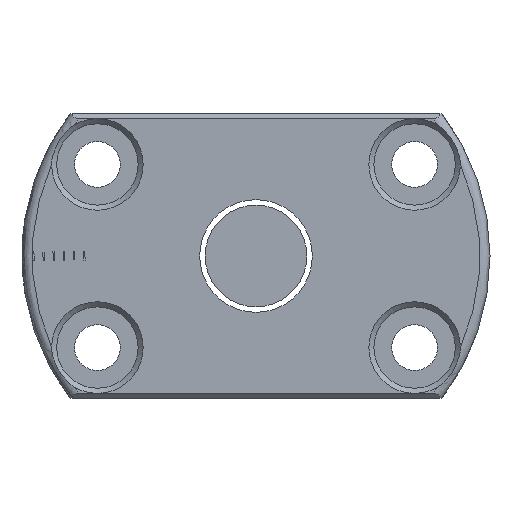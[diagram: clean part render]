
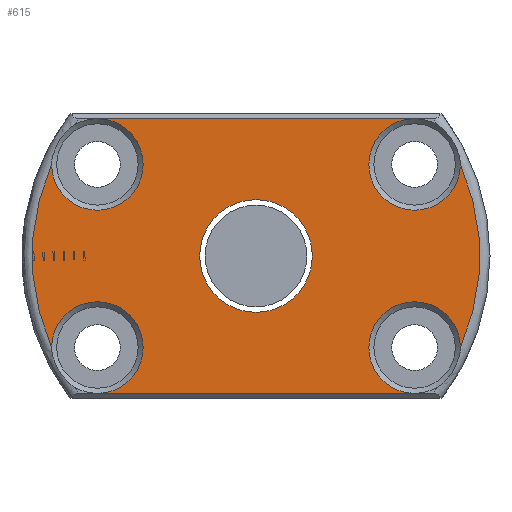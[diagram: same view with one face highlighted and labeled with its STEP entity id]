
A CAD part, left-side view. The second image highlights one B-rep face of the part: STEP entity #615.
In plain terms, the highlighted planar face has unit normal (-1, 0, 0).
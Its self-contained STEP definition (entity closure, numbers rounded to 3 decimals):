
#72 = LINE ( 'NONE', #2299, #1893 ) ;
#80 = AXIS2_PLACEMENT_3D ( 'NONE', #1989, #928, #389 ) ;
#83 = EDGE_LOOP ( 'NONE', ( #1822, #784, #3147, #3368, #2995, #826, #3529, #2976 ) ) ;
#98 = DIRECTION ( 'NONE',  ( 0., 1., 0. ) ) ;
#144 = CARTESIAN_POINT ( 'NONE',  ( -34., 0., 0. ) ) ;
#238 = CARTESIAN_POINT ( 'NONE',  ( -34., 20.088, -8.97 ) ) ;
#258 = CARTESIAN_POINT ( 'NONE',  ( -34., -20.088, 8.97 ) ) ;
#300 = VERTEX_POINT ( 'NONE', #1352 ) ;
#376 = AXIS2_PLACEMENT_3D ( 'NONE', #1431, #1211, #3402 ) ;
#383 = DIRECTION ( 'NONE',  ( 1., 0., 0. ) ) ;
#389 = DIRECTION ( 'NONE',  ( 0., -1., 0. ) ) ;
#424 = EDGE_CURVE ( 'NONE', #3250, #2663, #72, .T. ) ;
#481 = AXIS2_PLACEMENT_3D ( 'NONE', #923, #383, #3168 ) ;
#545 = CIRCLE ( 'NONE', #80, 4.5 ) ;
#615 = ADVANCED_FACE ( 'NONE', ( #3333, #1091 ), #1673, .T. ) ;
#784 = ORIENTED_EDGE ( 'NONE', *, *, #1216, .T. ) ;
#824 = CARTESIAN_POINT ( 'NONE',  ( -34., 0., 0. ) ) ;
#826 = ORIENTED_EDGE ( 'NONE', *, *, #2483, .T. ) ;
#831 = DIRECTION ( 'NONE',  ( 0., -1., 0. ) ) ;
#882 = CARTESIAN_POINT ( 'NONE',  ( -34., -15.588, 13.5 ) ) ;
#923 = CARTESIAN_POINT ( 'NONE',  ( -34., -15.588, -9. ) ) ;
#928 = DIRECTION ( 'NONE',  ( 1., 0., 0. ) ) ;
#991 = ORIENTED_EDGE ( 'NONE', *, *, #1637, .T. ) ;
#1091 = FACE_OUTER_BOUND ( 'NONE', #83, .T. ) ;
#1141 = DIRECTION ( 'NONE',  ( -1., 0., 0. ) ) ;
#1211 = DIRECTION ( 'NONE',  ( 1., 0., 0. ) ) ;
#1216 = EDGE_CURVE ( 'NONE', #3441, #1233, #2907, .T. ) ;
#1233 = VERTEX_POINT ( 'NONE', #258 ) ;
#1341 = VERTEX_POINT ( 'NONE', #238 ) ;
#1352 = CARTESIAN_POINT ( 'NONE',  ( -34., -15.588, -13.5 ) ) ;
#1421 = CIRCLE ( 'NONE', #3457, 5.54 ) ;
#1431 = CARTESIAN_POINT ( 'NONE',  ( -34., 15.588, 9. ) ) ;
#1449 = CARTESIAN_POINT ( 'NONE',  ( -34., 15.588, -9. ) ) ;
#1454 = EDGE_CURVE ( 'NONE', #300, #3441, #2054, .T. ) ;
#1459 = AXIS2_PLACEMENT_3D ( 'NONE', #824, #1141, #2757 ) ;
#1518 = CARTESIAN_POINT ( 'NONE',  ( -34., 0., 0. ) ) ;
#1520 = DIRECTION ( 'NONE',  ( 0., -1., 0. ) ) ;
#1637 = EDGE_CURVE ( 'NONE', #2220, #2220, #1421, .T. ) ;
#1652 = AXIS2_PLACEMENT_3D ( 'NONE', #1449, #2042, #2868 ) ;
#1673 = PLANE ( 'NONE',  #3078 ) ;
#1753 = DIRECTION ( 'NONE',  ( 0., 1., 0. ) ) ;
#1822 = ORIENTED_EDGE ( 'NONE', *, *, #1454, .T. ) ;
#1893 = VECTOR ( 'NONE', #1753, 1000. ) ;
#1966 = CARTESIAN_POINT ( 'NONE',  ( -34., 15.588, -13.5 ) ) ;
#1989 = CARTESIAN_POINT ( 'NONE',  ( -34., -15.588, 9. ) ) ;
#2026 = CARTESIAN_POINT ( 'NONE',  ( -34., 20.088, 8.97 ) ) ;
#2042 = DIRECTION ( 'NONE',  ( 1., 0., 0. ) ) ;
#2054 = CIRCLE ( 'NONE', #481, 4.5 ) ;
#2159 = CARTESIAN_POINT ( 'NONE',  ( -34., 5.54, 0. ) ) ;
#2167 = EDGE_CURVE ( 'NONE', #2836, #300, #2835, .T. ) ;
#2220 = VERTEX_POINT ( 'NONE', #2159 ) ;
#2299 = CARTESIAN_POINT ( 'NONE',  ( -34., 23., 13.5 ) ) ;
#2382 = CARTESIAN_POINT ( 'NONE',  ( -34., -20.088, -8.97 ) ) ;
#2463 = EDGE_LOOP ( 'NONE', ( #991 ) ) ;
#2483 = EDGE_CURVE ( 'NONE', #3327, #1341, #3271, .T. ) ;
#2582 = CIRCLE ( 'NONE', #1652, 4.5 ) ;
#2592 = CIRCLE ( 'NONE', #376, 4.5 ) ;
#2626 = DIRECTION ( 'NONE',  ( 1., 0., 0. ) ) ;
#2663 = VERTEX_POINT ( 'NONE', #3042 ) ;
#2757 = DIRECTION ( 'NONE',  ( 0., -1., 0. ) ) ;
#2758 = EDGE_CURVE ( 'NONE', #1341, #2836, #2582, .T. ) ;
#2797 = CARTESIAN_POINT ( 'NONE',  ( -34., 23., -13.5 ) ) ;
#2835 = LINE ( 'NONE', #2797, #2861 ) ;
#2836 = VERTEX_POINT ( 'NONE', #1966 ) ;
#2851 = DIRECTION ( 'NONE',  ( -1., 0., 0. ) ) ;
#2861 = VECTOR ( 'NONE', #3056, 1000. ) ;
#2868 = DIRECTION ( 'NONE',  ( 0., -1., 0. ) ) ;
#2907 = CIRCLE ( 'NONE', #1459, 22. ) ;
#2923 = AXIS2_PLACEMENT_3D ( 'NONE', #144, #2851, #1520 ) ;
#2976 = ORIENTED_EDGE ( 'NONE', *, *, #2167, .T. ) ;
#2995 = ORIENTED_EDGE ( 'NONE', *, *, #3138, .T. ) ;
#3042 = CARTESIAN_POINT ( 'NONE',  ( -34., 15.588, 13.5 ) ) ;
#3056 = DIRECTION ( 'NONE',  ( 0., -1., 0. ) ) ;
#3078 = AXIS2_PLACEMENT_3D ( 'NONE', #3592, #3612, #831 ) ;
#3138 = EDGE_CURVE ( 'NONE', #2663, #3327, #2592, .T. ) ;
#3147 = ORIENTED_EDGE ( 'NONE', *, *, #3308, .T. ) ;
#3168 = DIRECTION ( 'NONE',  ( 0., -1., 0. ) ) ;
#3250 = VERTEX_POINT ( 'NONE', #882 ) ;
#3271 = CIRCLE ( 'NONE', #2923, 22. ) ;
#3308 = EDGE_CURVE ( 'NONE', #1233, #3250, #545, .T. ) ;
#3327 = VERTEX_POINT ( 'NONE', #2026 ) ;
#3333 = FACE_BOUND ( 'NONE', #2463, .T. ) ;
#3368 = ORIENTED_EDGE ( 'NONE', *, *, #424, .T. ) ;
#3402 = DIRECTION ( 'NONE',  ( 0., -1., 0. ) ) ;
#3441 = VERTEX_POINT ( 'NONE', #2382 ) ;
#3457 = AXIS2_PLACEMENT_3D ( 'NONE', #1518, #2626, #98 ) ;
#3529 = ORIENTED_EDGE ( 'NONE', *, *, #2758, .T. ) ;
#3592 = CARTESIAN_POINT ( 'NONE',  ( -34., 23., 0. ) ) ;
#3612 = DIRECTION ( 'NONE',  ( -1., 0., 0. ) ) ;
